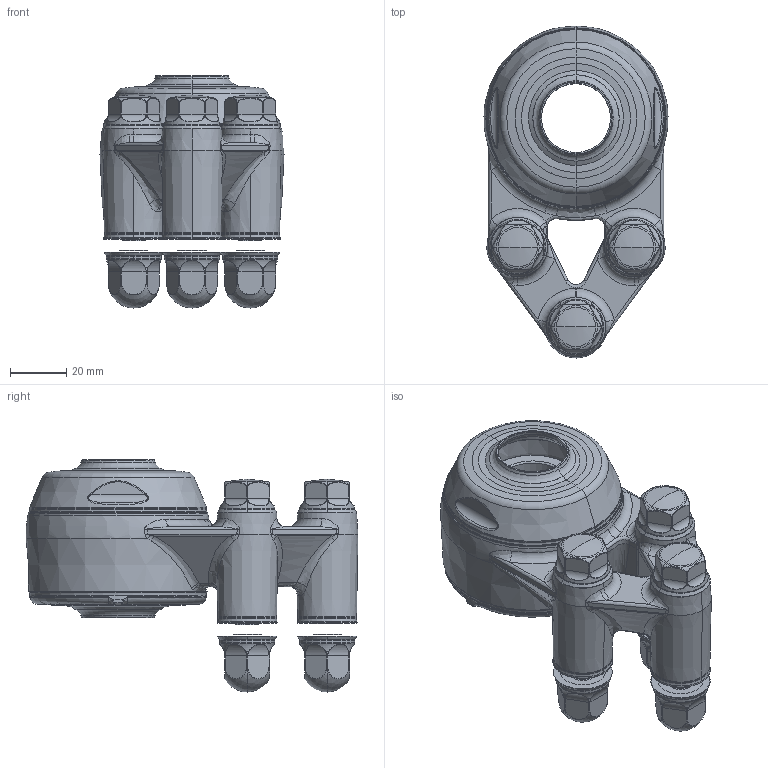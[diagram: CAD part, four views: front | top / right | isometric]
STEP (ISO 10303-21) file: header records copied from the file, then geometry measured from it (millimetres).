
FILE_DESCRIPTION (( 'STEP AP203' ), '1' );
FILE_NAME ('XB3FC52(White)-CSB2500(Front)-OM(Blue)-OS(White)-BXHM1050-NDXHM10_Shell.step', '2020-09-24T12:45:20', ( '' ), ( '' ), 'SwSTEP 2.0', 'SolidWorks 2019', '' );
FILE_SCHEMA (( 'CONFIG_CONTROL_DESIGN' ));
Length unit declared in the file: millimetre
Products named in the file (1): XB3FC52(White)-CSB2500(Front)-OM(Blue)-OS(White)-BXHM1050-NDXHM10_Shell
Bounding box: 65.6 x 118.34 x 82.74 mm (x, y, z)
Surface area: 46148.5 mm2 (no closed solid volume)
Topology: 0 solids, 58 shells, 997 faces, 3122 edges, 2094 vertices
Faces by surface type: bspline 292, cylinder 224, torus 222, cone 130, plane 87, sphere 42
Entity records: 55096 total; most frequent: CARTESIAN_POINT 30622, ORIENTED_EDGE 5106, DIRECTION 4562, EDGE_CURVE 3118, VERTEX_POINT 2094, AXIS2_PLACEMENT_3D 2063, CIRCLE 1357, B_SPLINE_CURVE_WITH_KNOTS 1301
